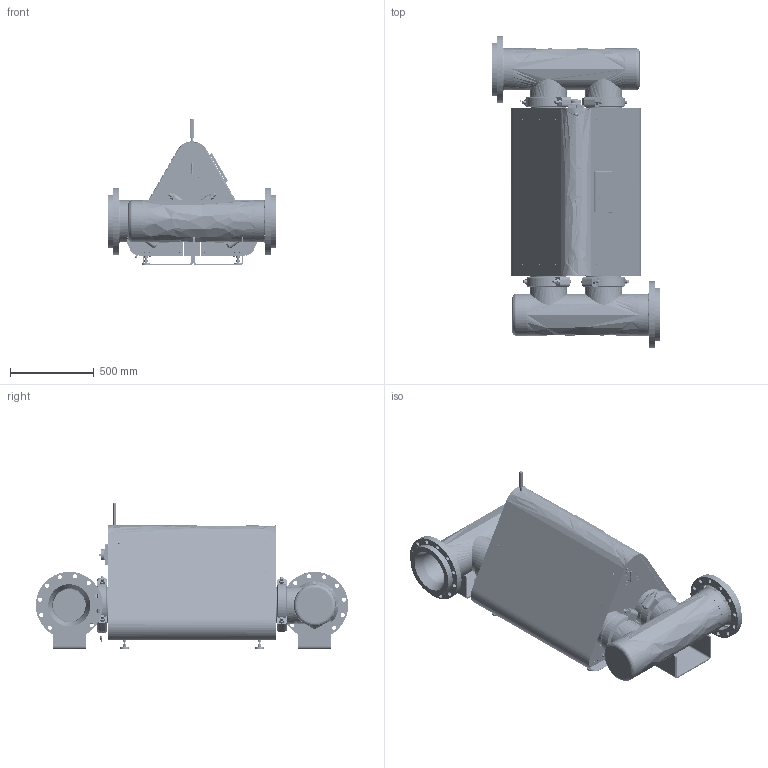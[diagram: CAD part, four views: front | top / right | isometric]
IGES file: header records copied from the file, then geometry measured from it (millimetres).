
Global section: file name: H Max 2_V1.1; native system: Autodesk Inventor 2024; preprocessor: unknown; author: Massimo Maselli; date: 20240115.110857; units: millimetre
Bounding box: 1010 x 1866.98 x 876.97 mm (x, y, z)
Volume: 58558518.9 mm3; surface area: 11740606.7 mm2
Topology: 111 solids, 111 shells, 9065 faces, 24902 edges, 16593 vertices
Faces by surface type: bspline 9065
